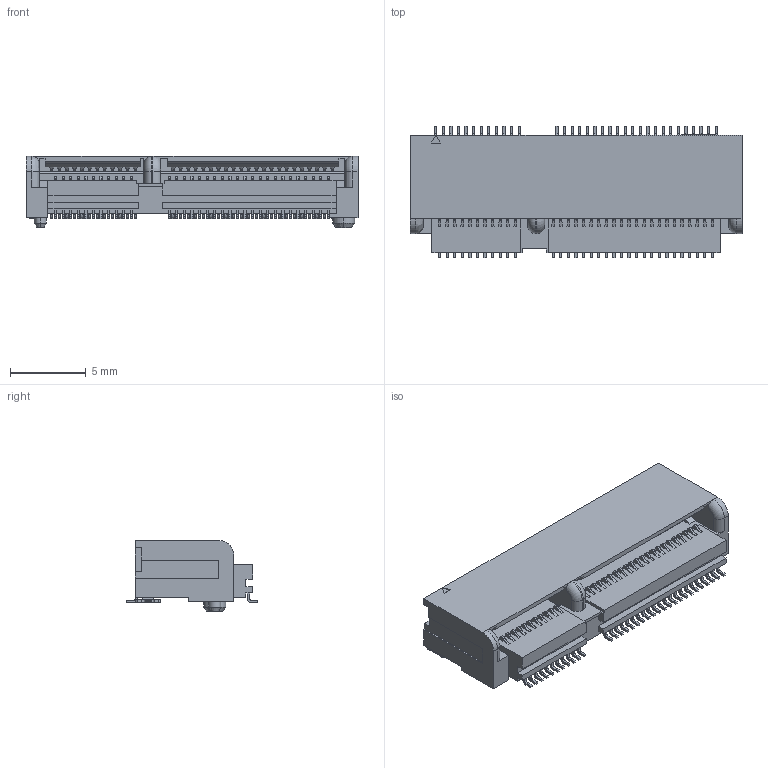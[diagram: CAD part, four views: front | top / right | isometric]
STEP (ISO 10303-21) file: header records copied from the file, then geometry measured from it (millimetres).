
FILE_DESCRIPTION (( 'STEP AP214' ), '1' );
FILE_NAME ('PCIE-SMD_2199230-4.STEP', '2022-06-16T00:31:03', ( 'PC' ), ( 'Microsoft' ), 'SwSTEP 2.0', 'SolidWorks 2020', '' );
FILE_SCHEMA (( 'AUTOMOTIVE_DESIGN' ));
Length unit declared in the file: millimetre
Products named in the file (1): PCIE-SMD_2199230-4
Bounding box: 21.9 x 8.7 x 4.7 mm (x, y, z)
Volume: 499.6 mm3; surface area: 756.9 mm2
Topology: 1 solids, 1 shells, 1663 faces, 4530 edges, 2991 vertices
Faces by surface type: plane 1292, cylinder 265, bspline 99, cone 4, torus 3
Entity records: 70846 total; most frequent: CARTESIAN_POINT 10658, ORIENTED_EDGE 9060, DIRECTION 7978, EDGE_CURVE 4530, VECTOR 3776, LINE 3776, VERTEX_POINT 2991, AXIS2_PLACEMENT_3D 2101
